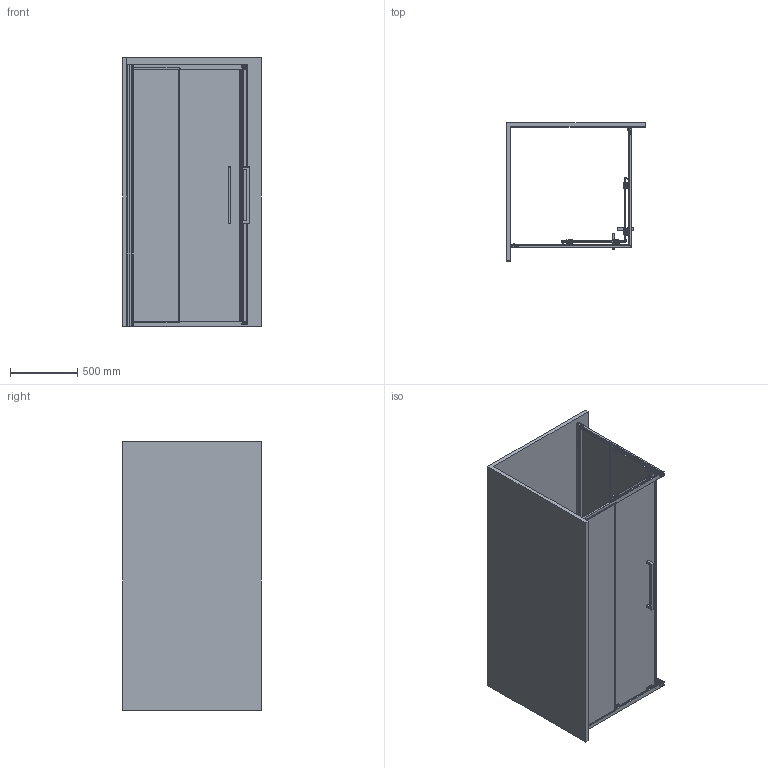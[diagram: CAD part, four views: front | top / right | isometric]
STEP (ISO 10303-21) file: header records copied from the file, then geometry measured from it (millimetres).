
FILE_DESCRIPTION((''),'2;1');
FILE_NAME('00-A617022_ASM','2022-06-07T16:09:57',('M'),(''),'CREO PARAMETRIC BY PTC INC, 2017110','CREO PARAMETRIC BY PTC INC, 2017110','');
FILE_SCHEMA(('CONFIG_CONTROL_DESIGN'));
Length unit declared in the file: millimetre
Products named in the file (42): 00; DBT_ST4X20; YTZG_ST4X10; 28Z05-1-; 28Z05-2-; 001_ASM; 003; 0005; 000; _0003; 0020; 0032; _AF_ASM; _0004; 0021; _A_ASM; 10001; 4500; 0031_ASM; 0025; 00_ASM; 0027; 0035; 1-N000; _N1000; 0036; 0; 00-A617022_ASM
Assembly tree (121 placements, depth 4):
  00-A617022_ASM
    001_ASM  x2
      00
      00
      DBT_ST4X20
      001_ASM
        YTZG_ST4X10
        28Z05-1-
        28Z05-2-
    00  x2
    003  x2
    0005  x2
    0031_ASM
      000
      _AF_ASM
        _0003
        00
        0020
        0032
      _AF_ASM
        _0003
        00
        0020
        0032
      _A_ASM
        _0004
        0021
        00
        0032
      _A_ASM
        _0004
        0021
        00
        0032
      10001
      4500
      00  x2
    0025  x2
    00  x2
    00_ASM
      000
      _AF_ASM
        _0003
        00
        0020
        0032
      _AF_ASM
        _0003
        00
        0020
        0032
      _A_ASM
        _0004
        0021
        00
        0032
      _A_ASM
        _0004
        0021
        00
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Bounding box: 1030 x 1030 x 2000.1 mm (x, y, z)
Volume: 155348182.5 mm3; surface area: 17551400.4 mm2
Topology: 127 solids, 127 shells, 4578 faces, 10986 edges, 6796 vertices
Faces by surface type: cylinder 1778, plane 1708, bspline 468, torus 338, sphere 168, cone 118
Entity records: 41346 total; most frequent: CARTESIAN_POINT 16001, DIRECTION 5351, ORIENTED_EDGE 4908, EDGE_CURVE 2454, AXIS2_PLACEMENT_3D 1973, VERTEX_POINT 1538, VECTOR 1405, LINE 1405
